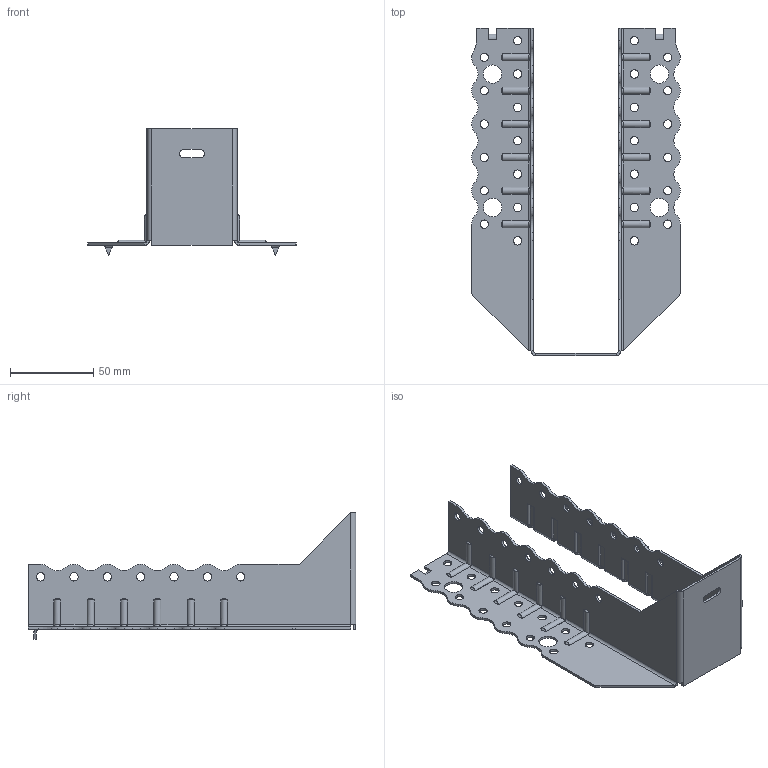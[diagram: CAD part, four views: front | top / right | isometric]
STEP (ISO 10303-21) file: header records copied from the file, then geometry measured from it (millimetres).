
FILE_DESCRIPTION (( 'STEP AP203' ), '1' );
FILE_NAME ('30623TOP.STEP', '2021-04-07T11:16:51', ( '' ), ( '' ), 'SwSTEP 2.0', 'SolidWorks 2013', '' );
FILE_SCHEMA (( 'CONFIG_CONTROL_DESIGN' ));
Length unit declared in the file: millimetre
Products named in the file (1): 30623TOP
Bounding box: 125 x 196.5 x 76 mm (x, y, z)
Volume: 45058.9 mm3; surface area: 64006.5 mm2
Topology: 1 solids, 1 shells, 498 faces, 1348 edges, 852 vertices
Faces by surface type: cylinder 317, plane 133, torus 24, bspline 24
Entity records: 18595 total; most frequent: CARTESIAN_POINT 5929, ORIENTED_EDGE 2696, DIRECTION 2596, EDGE_CURVE 1348, AXIS2_PLACEMENT_3D 949, VERTEX_POINT 852, LINE 698, VECTOR 698
